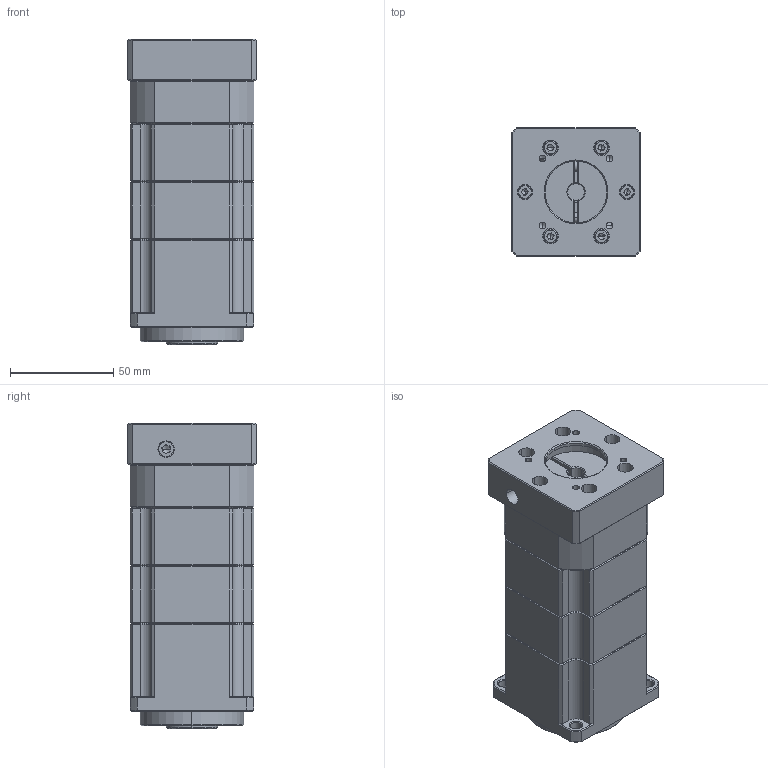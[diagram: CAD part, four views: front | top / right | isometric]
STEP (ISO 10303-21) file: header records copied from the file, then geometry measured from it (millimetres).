
FILE_DESCRIPTION (( 'STEP AP214' ), '1' );
FILE_NAME ('ZPB060-K16-L3-P1-8-30-46-M4.step', '2024-04-24T07:38:18', ( '' ), ( '' ), 'SwSTEP 2.0', 'SolidWorks 2016', '' );
FILE_SCHEMA (( 'AUTOMOTIVE_DESIGN' ));
Length unit declared in the file: millimetre
Products named in the file (1): ZPB060-K16-L3-P1-8-30-46-M4
Bounding box: 62.5 x 62.5 x 148 mm (x, y, z)
Volume: 438811.9 mm3; surface area: 85319 mm2
Topology: 16 solids, 17 shells, 2097 faces, 5808 edges, 3728 vertices
Faces by surface type: plane 1113, bspline 366, cylinder 275, cone 201, torus 96, sphere 46
Entity records: 105536 total; most frequent: CARTESIAN_POINT 32154, ORIENTED_EDGE 11312, DIRECTION 8911, EDGE_CURVE 5656, VERTEX_POINT 3659, VECTOR 3405, LINE 3405, AXIS2_PLACEMENT_3D 2753
